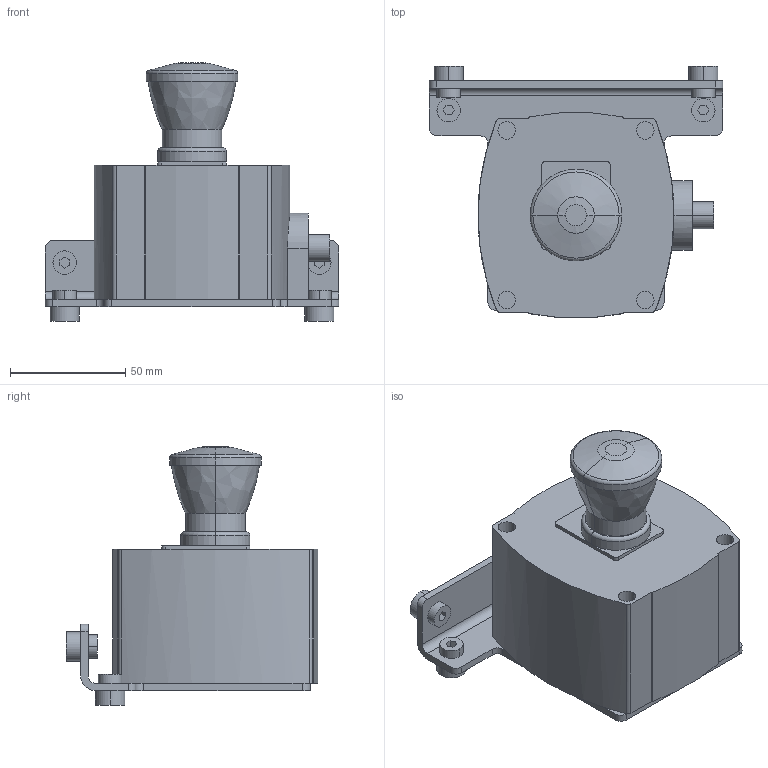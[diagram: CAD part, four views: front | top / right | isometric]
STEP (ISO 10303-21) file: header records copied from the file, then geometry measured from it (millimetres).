
FILE_DESCRIPTION((''),'2;1');
FILE_NAME('75M-CS','2023-02-27T',('jenni.wallner'),(''),'PRO/ENGINEER BY PARAMETRIC TECHNOLOGY CORPORATION, 2012420','PRO/ENGINEER BY PARAMETRIC TECHNOLOGY CORPORATION, 2012420','');
FILE_SCHEMA(('CONFIG_CONTROL_DESIGN'));
Length unit declared in the file: inch
Products named in the file (1): 75M-CS
Bounding box: 127 x 109.02 x 111.92 mm (x, y, z)
Volume: 480187 mm3; surface area: 53520.2 mm2
Topology: 1 solids, 5 shells, 207 faces, 484 edges, 316 vertices
Faces by surface type: plane 99, cylinder 98, torus 4, bspline 4, cone 2
Entity records: 6137 total; most frequent: CARTESIAN_POINT 1133, DIRECTION 1113, ORIENTED_EDGE 968, EDGE_CURVE 484, AXIS2_PLACEMENT_3D 428, VERTEX_POINT 316, VECTOR 257, LINE 257
